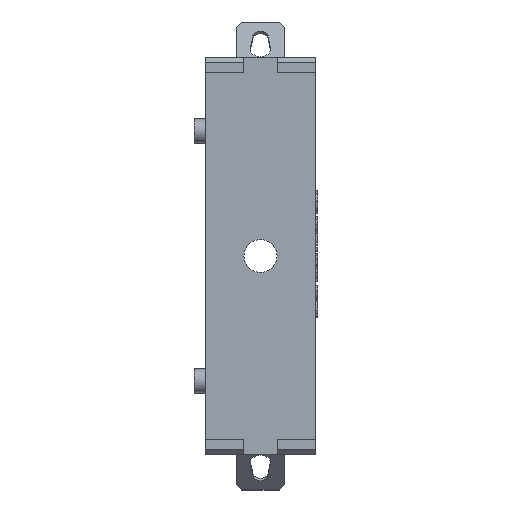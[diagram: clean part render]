
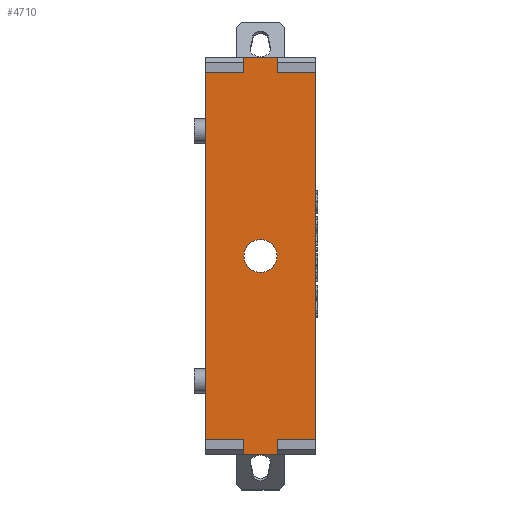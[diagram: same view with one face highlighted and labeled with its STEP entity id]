
A CAD part, front view. The second image highlights one B-rep face of the part: STEP entity #4710.
In plain terms, the highlighted planar face has unit normal (0, -1, 0).
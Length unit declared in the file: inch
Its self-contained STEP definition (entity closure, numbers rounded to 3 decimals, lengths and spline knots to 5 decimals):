
#69=CIRCLE('',#4965,0.065);
#151=FACE_BOUND('',#643,.T.);
#370=FACE_OUTER_BOUND('',#642,.T.);
#642=EDGE_LOOP('',(#3797,#3798,#3799,#3800,#3801,#3802,#3803,#3804,#3805,
#3806,#3807,#3808));
#643=EDGE_LOOP('',(#3809));
#1145=LINE('',#8017,#1628);
#1157=LINE('',#8051,#1640);
#1166=LINE('',#8068,#1649);
#1168=LINE('',#8071,#1651);
#1169=LINE('',#8074,#1652);
#1170=LINE('',#8076,#1653);
#1171=LINE('',#8078,#1654);
#1172=LINE('',#8080,#1655);
#1173=LINE('',#8082,#1656);
#1174=LINE('',#8083,#1657);
#1175=LINE('',#8085,#1658);
#1176=LINE('',#8086,#1659);
#1628=VECTOR('',#5536,0.3937);
#1640=VECTOR('',#5562,0.3937);
#1649=VECTOR('',#5575,0.3937);
#1651=VECTOR('',#5579,0.3937);
#1652=VECTOR('',#5582,0.3937);
#1653=VECTOR('',#5583,0.3937);
#1654=VECTOR('',#5584,0.3937);
#1655=VECTOR('',#5585,0.3937);
#1656=VECTOR('',#5586,0.3937);
#1657=VECTOR('',#5587,0.3937);
#1658=VECTOR('',#5588,0.3937);
#1659=VECTOR('',#5589,0.3937);
#2121=VERTEX_POINT('',#8014);
#2122=VERTEX_POINT('',#8016);
#2136=VERTEX_POINT('',#8048);
#2137=VERTEX_POINT('',#8050);
#2142=VERTEX_POINT('',#8065);
#2143=VERTEX_POINT('',#8067);
#2144=VERTEX_POINT('',#8073);
#2145=VERTEX_POINT('',#8075);
#2146=VERTEX_POINT('',#8077);
#2147=VERTEX_POINT('',#8079);
#2148=VERTEX_POINT('',#8081);
#2149=VERTEX_POINT('',#8084);
#2150=VERTEX_POINT('',#8087);
#2703=EDGE_CURVE('',#2121,#2122,#1145,.T.);
#2719=EDGE_CURVE('',#2136,#2137,#1157,.T.);
#2728=EDGE_CURVE('',#2143,#2142,#1166,.T.);
#2730=EDGE_CURVE('',#2136,#2143,#1168,.T.);
#2731=EDGE_CURVE('',#2144,#2142,#1169,.T.);
#2732=EDGE_CURVE('',#2144,#2145,#1170,.T.);
#2733=EDGE_CURVE('',#2145,#2146,#1171,.T.);
#2734=EDGE_CURVE('',#2147,#2146,#1172,.T.);
#2735=EDGE_CURVE('',#2147,#2148,#1173,.T.);
#2736=EDGE_CURVE('',#2148,#2122,#1174,.T.);
#2737=EDGE_CURVE('',#2121,#2149,#1175,.T.);
#2738=EDGE_CURVE('',#2149,#2137,#1176,.T.);
#2739=EDGE_CURVE('',#2150,#2150,#69,.T.);
#3797=ORIENTED_EDGE('',*,*,#2730,.T.);
#3798=ORIENTED_EDGE('',*,*,#2728,.T.);
#3799=ORIENTED_EDGE('',*,*,#2731,.F.);
#3800=ORIENTED_EDGE('',*,*,#2732,.T.);
#3801=ORIENTED_EDGE('',*,*,#2733,.T.);
#3802=ORIENTED_EDGE('',*,*,#2734,.F.);
#3803=ORIENTED_EDGE('',*,*,#2735,.T.);
#3804=ORIENTED_EDGE('',*,*,#2736,.T.);
#3805=ORIENTED_EDGE('',*,*,#2703,.F.);
#3806=ORIENTED_EDGE('',*,*,#2737,.T.);
#3807=ORIENTED_EDGE('',*,*,#2738,.T.);
#3808=ORIENTED_EDGE('',*,*,#2719,.F.);
#3809=ORIENTED_EDGE('',*,*,#2739,.T.);
#4475=PLANE('',#4964);
#4710=ADVANCED_FACE('',(#370,#151),#4475,.T.);
#4964=AXIS2_PLACEMENT_3D('',#8072,#5580,#5581);
#4965=AXIS2_PLACEMENT_3D('',#8088,#5590,#5591);
#5536=DIRECTION('',(0.,0.,-1.));
#5562=DIRECTION('',(1.,0.,0.));
#5575=DIRECTION('',(-1.,0.,0.));
#5579=DIRECTION('',(0.,0.,-1.));
#5580=DIRECTION('center_axis',(0.,-1.,0.));
#5581=DIRECTION('ref_axis',(0.,0.,-1.));
#5582=DIRECTION('',(0.,0.,1.));
#5583=DIRECTION('',(1.,0.,0.));
#5584=DIRECTION('',(0.,0.,-1.));
#5585=DIRECTION('',(-1.,0.,0.));
#5586=DIRECTION('',(0.,0.,1.));
#5587=DIRECTION('',(1.,0.,0.));
#5588=DIRECTION('',(-1.,0.,0.));
#5589=DIRECTION('',(0.,0.,1.));
#5590=DIRECTION('center_axis',(0.,1.,0.));
#5591=DIRECTION('ref_axis',(1.,0.,0.));
#8014=CARTESIAN_POINT('',(0.215,0.,0.72));
#8016=CARTESIAN_POINT('',(0.215,0.,-0.72));
#8017=CARTESIAN_POINT('',(0.215,0.,0.78));
#8048=CARTESIAN_POINT('',(-0.065,0.,0.78));
#8050=CARTESIAN_POINT('',(0.065,0.,0.78));
#8051=CARTESIAN_POINT('',(-0.215,0.,0.78));
#8065=CARTESIAN_POINT('',(-0.215,0.,0.72));
#8067=CARTESIAN_POINT('',(-0.065,0.,0.72));
#8068=CARTESIAN_POINT('',(-0.1075,0.,0.72));
#8071=CARTESIAN_POINT('',(-0.065,0.,0.375));
#8072=CARTESIAN_POINT('Origin',(0.,0.,0.));
#8073=CARTESIAN_POINT('',(-0.215,0.,-0.72));
#8074=CARTESIAN_POINT('',(-0.215,0.,-0.78));
#8075=CARTESIAN_POINT('',(-0.065,0.,-0.72));
#8076=CARTESIAN_POINT('',(-0.1075,0.,-0.72));
#8077=CARTESIAN_POINT('',(-0.065,0.,-0.78));
#8078=CARTESIAN_POINT('',(-0.065,0.,-0.375));
#8079=CARTESIAN_POINT('',(0.065,0.,-0.78));
#8080=CARTESIAN_POINT('',(0.215,0.,-0.78));
#8081=CARTESIAN_POINT('',(0.065,0.,-0.72));
#8082=CARTESIAN_POINT('',(0.065,0.,-0.375));
#8083=CARTESIAN_POINT('',(0.1075,0.,-0.72));
#8084=CARTESIAN_POINT('',(0.065,0.,0.72));
#8085=CARTESIAN_POINT('',(0.1075,0.,0.72));
#8086=CARTESIAN_POINT('',(0.065,0.,0.375));
#8087=CARTESIAN_POINT('',(-0.065,0.,0.));
#8088=CARTESIAN_POINT('Origin',(0.,0.,0.));
